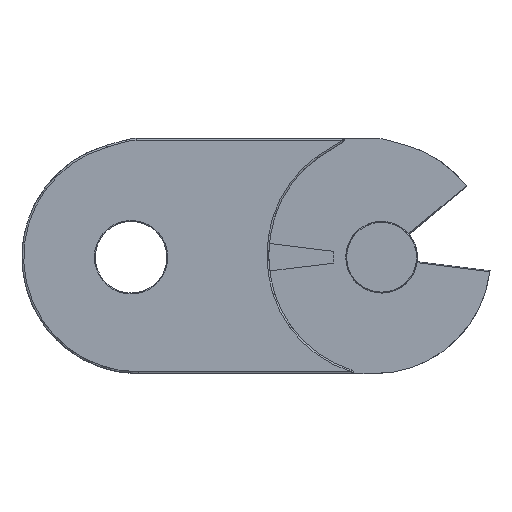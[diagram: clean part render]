
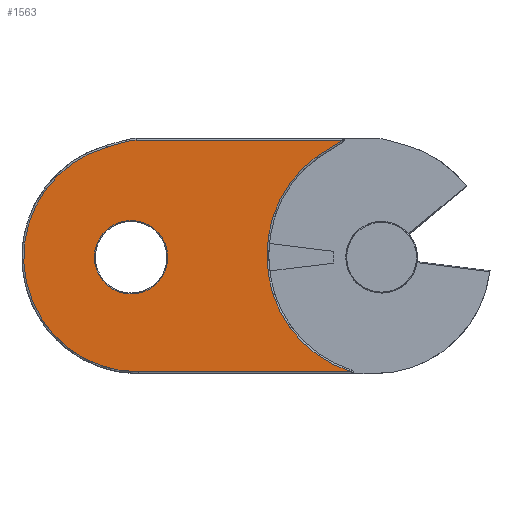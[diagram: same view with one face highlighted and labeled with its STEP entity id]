
A CAD part, left-side view. The second image highlights one B-rep face of the part: STEP entity #1563.
In plain terms, the highlighted planar face has unit normal (-1, 0, 0) as drawn and (0, 0, -1) by its records, which use the part's own axes.
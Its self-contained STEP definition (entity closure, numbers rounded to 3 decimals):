
#1036=CARTESIAN_POINT('',(105.249,139.968,110.528));
#1037=VERTEX_POINT('',#1036);
#1065=CARTESIAN_POINT('',(128.833,172.468,110.528));
#1066=VERTEX_POINT('',#1065);
#1082=CARTESIAN_POINT('',(95.337,171.968,110.528));
#1083=DIRECTION('',(0.,0.,-1.));
#1084=DIRECTION('',(0.809,-0.587,0.));
#1085=AXIS2_PLACEMENT_3D('',#1082,#1083,#1084);
#1086=CIRCLE('',#1085,33.5);
#1087=EDGE_CURVE('',#1066,#1037,#1086,.T.);
#1097=CARTESIAN_POINT('',(114.841,200.205,110.528));
#1098=VERTEX_POINT('',#1097);
#1099=CARTESIAN_POINT('',(95.337,172.968,110.528));
#1100=DIRECTION('',(0.,0.,-1.0));
#1101=DIRECTION('',(0.893,0.45,0.));
#1102=AXIS2_PLACEMENT_3D('',#1099,#1100,#1101);
#1103=CIRCLE('',#1102,33.5);
#1104=EDGE_CURVE('',#1098,#1066,#1103,.T.);
#1150=CARTESIAN_POINT('',(107.835,204.668,110.528));
#1151=VERTEX_POINT('',#1150);
#1159=CARTESIAN_POINT('',(107.835,204.668,110.528));
#1160=DIRECTION('',(0.843,-0.537,0.));
#1161=VECTOR('',#1160,8.308);
#1162=LINE('',#1159,#1161);
#1163=EDGE_CURVE('',#1151,#1098,#1162,.T.);
#1180=CARTESIAN_POINT('',(173.507,202.771,110.528));
#1181=VERTEX_POINT('',#1180);
#1216=CARTESIAN_POINT('',(164.837,139.968,110.528));
#1217=VERTEX_POINT('',#1216);
#1225=CARTESIAN_POINT('',(164.837,171.968,110.528));
#1226=DIRECTION('',(0.,0.,1.0));
#1227=DIRECTION('',(0.991,-0.137,0.));
#1228=AXIS2_PLACEMENT_3D('',#1225,#1226,#1227);
#1229=CIRCLE('',#1228,32.);
#1230=EDGE_CURVE('',#1217,#1181,#1229,.T.);
#1240=CARTESIAN_POINT('',(168.03,204.313,110.528));
#1241=VERTEX_POINT('',#1240);
#1258=CARTESIAN_POINT('',(173.507,202.771,110.528));
#1259=DIRECTION('',(-0.963,0.271,0.0));
#1260=VECTOR('',#1259,5.69);
#1261=LINE('',#1258,#1260);
#1262=EDGE_CURVE('',#1181,#1241,#1261,.T.);
#1279=CARTESIAN_POINT('',(105.249,139.968,110.528));
#1280=DIRECTION('',(1.0,0.0,0.0));
#1281=VECTOR('',#1280,59.588);
#1282=LINE('',#1279,#1281);
#1283=EDGE_CURVE('',#1037,#1217,#1282,.T.);
#1295=CARTESIAN_POINT('',(165.456,204.668,110.528));
#1296=VERTEX_POINT('',#1295);
#1314=CARTESIAN_POINT('',(165.456,195.168,110.528));
#1315=DIRECTION('',(0.,0.,1.));
#1316=DIRECTION('',(0.137,0.991,0.));
#1317=AXIS2_PLACEMENT_3D('',#1314,#1315,#1316);
#1318=CIRCLE('',#1317,9.5);
#1319=EDGE_CURVE('',#1241,#1296,#1318,.T.);
#1345=CARTESIAN_POINT('',(165.456,204.668,110.528));
#1346=DIRECTION('',(-1.0,0.0,0.0));
#1347=VECTOR('',#1346,57.621);
#1348=LINE('',#1345,#1347);
#1349=EDGE_CURVE('',#1296,#1151,#1348,.T.);
#1537=CARTESIAN_POINT('',(128.779,172.346,110.528));
#1538=DIRECTION('',(0.0,0.0,1.0));
#1539=DIRECTION('',(1.0,0.0,0.0));
#1540=AXIS2_PLACEMENT_3D('',#1537,#1538,#1539);
#1541=PLANE('',#1540);
#1542=ORIENTED_EDGE('',*,*,#1230,.F.);
#1543=ORIENTED_EDGE('',*,*,#1283,.F.);
#1544=ORIENTED_EDGE('',*,*,#1087,.F.);
#1545=ORIENTED_EDGE('',*,*,#1104,.F.);
#1546=ORIENTED_EDGE('',*,*,#1163,.F.);
#1547=ORIENTED_EDGE('',*,*,#1349,.F.);
#1548=ORIENTED_EDGE('',*,*,#1319,.F.);
#1549=ORIENTED_EDGE('',*,*,#1262,.F.);
#1550=EDGE_LOOP('',(#1542,#1543,#1544,#1545,#1546,#1547,#1548,#1549));
#1551=FACE_OUTER_BOUND('',#1550,.T.);
#1552=CARTESIAN_POINT('',(177.087,171.968,110.528));
#1553=VERTEX_POINT('',#1552);
#1554=CARTESIAN_POINT('',(166.837,171.968,110.528));
#1555=DIRECTION('',(0.0,0.0,-1.0));
#1556=DIRECTION('',(-1.0,0.0,0.0));
#1557=AXIS2_PLACEMENT_3D('',#1554,#1555,#1556);
#1558=CIRCLE('',#1557,10.25);
#1559=EDGE_CURVE('',#1553,#1553,#1558,.T.);
#1560=ORIENTED_EDGE('',*,*,#1559,.F.);
#1561=EDGE_LOOP('',(#1560));
#1562=FACE_BOUND('',#1561,.T.);
#1563=ADVANCED_FACE('',(#1551,#1562),#1541,.F.);
